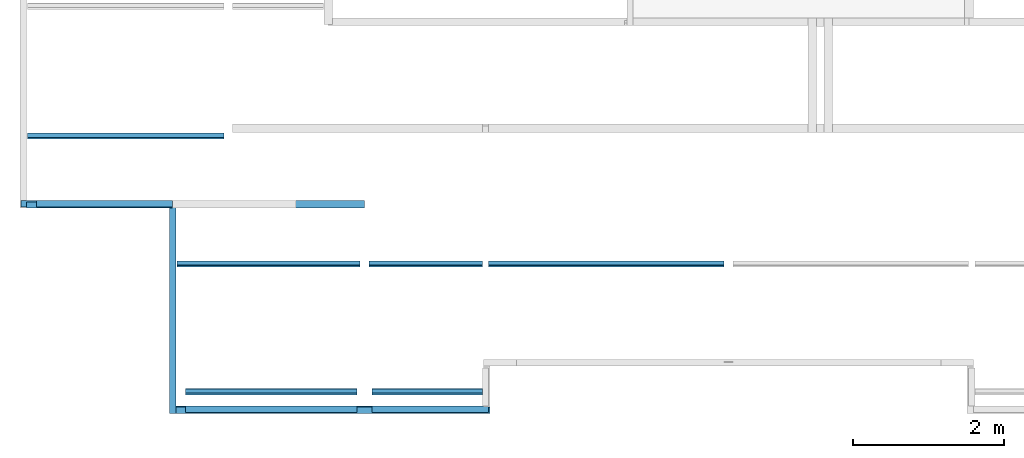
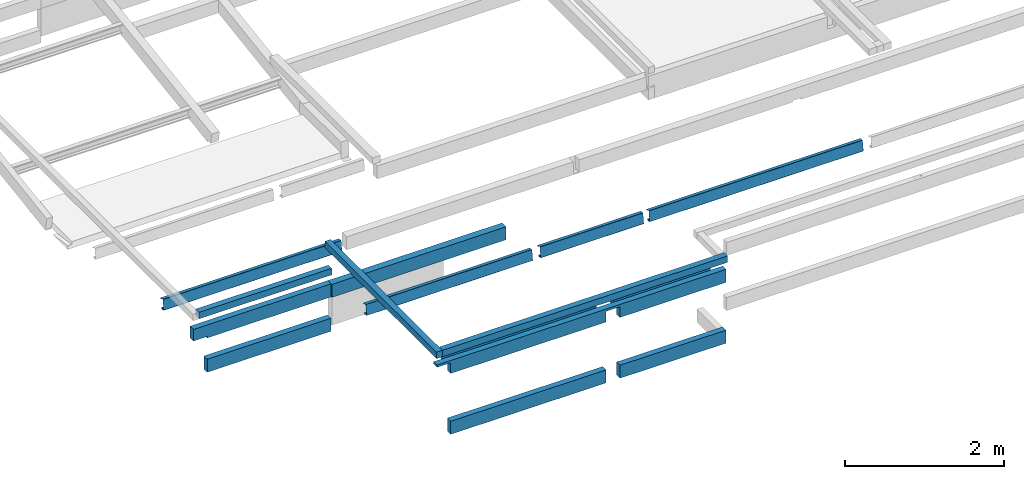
# One storey, part 1 of 9: 14 beams.
"""IFC4 building model written with IfcOpenShell, lengths in metres."""

from ifc_helpers import new_model, entity, si_unit, converted_unit, derived_unit, direction, frame, origin, place, context, subcontext, project, spatial, line, arc, indexed_curve, outline, extrude, source, transform, mapped, material, type_object, type_shapes, element, save


model = new_model("IFC4")

# Units and contexts
model_context = context("Model", 3, precision=1e-05, world=origin(), true_north=direction((6.123031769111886e-17, 1.0)))
body_context = subcontext(model_context, "Body", "Model", "MODEL_VIEW")
ifc_project = project(units=[si_unit("LENGTHUNIT", "METRE"), si_unit("AREAUNIT", "SQUARE_METRE"), si_unit("VOLUMEUNIT", "CUBIC_METRE"), converted_unit("PLANEANGLEUNIT", "DEGREE", entity("IfcRatioMeasure", 0.017453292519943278), si_unit("PLANEANGLEUNIT", "RADIAN"), dimensions=[0, 0, 0, 0, 0, 0, 0]), si_unit("MASSUNIT", "GRAM", prefix="KILO"), derived_unit("MASSDENSITYUNIT", [(si_unit("MASSUNIT", "GRAM", prefix="KILO"), 1), (si_unit("LENGTHUNIT", "METRE"), -3)]), derived_unit("IONCONCENTRATIONUNIT", [(si_unit("MASSUNIT", "GRAM", prefix="KILO"), 1), (si_unit("LENGTHUNIT", "METRE"), -3)]), derived_unit("MOMENTOFINERTIAUNIT", [(si_unit("LENGTHUNIT", "METRE"), 4)]), si_unit("TIMEUNIT", "SECOND"), si_unit("FREQUENCYUNIT", "HERTZ"), si_unit("THERMODYNAMICTEMPERATUREUNIT", "DEGREE_CELSIUS"), derived_unit("THERMALTRANSMITTANCEUNIT", [(si_unit("MASSUNIT", "GRAM", prefix="KILO"), 1), (si_unit("THERMODYNAMICTEMPERATUREUNIT", "KELVIN"), -1), (si_unit("TIMEUNIT", "SECOND"), -3)]), derived_unit("THERMALCONDUCTANCEUNIT", [(si_unit("MASSUNIT", "GRAM", prefix="KILO"), 1), (si_unit("THERMODYNAMICTEMPERATUREUNIT", "KELVIN"), -1), (si_unit("TIMEUNIT", "SECOND"), -3), (si_unit("LENGTHUNIT", "METRE"), 1)]), derived_unit("VOLUMETRICFLOWRATEUNIT", [(si_unit("LENGTHUNIT", "METRE"), 3), (si_unit("TIMEUNIT", "SECOND"), -1)]), derived_unit("MASSFLOWRATEUNIT", [(si_unit("MASSUNIT", "GRAM", prefix="KILO"), 1), (si_unit("TIMEUNIT", "SECOND"), -1)]), derived_unit("ROTATIONALFREQUENCYUNIT", [(si_unit("TIMEUNIT", "SECOND"), -1)]), si_unit("ELECTRICCURRENTUNIT", "AMPERE"), si_unit("ELECTRICVOLTAGEUNIT", "VOLT"), si_unit("POWERUNIT", "WATT"), si_unit("FORCEUNIT", "NEWTON", prefix="KILO"), si_unit("ILLUMINANCEUNIT", "LUX"), si_unit("LUMINOUSFLUXUNIT", "LUMEN"), si_unit("LUMINOUSINTENSITYUNIT", "CANDELA"), derived_unit("USERDEFINED", [(si_unit("MASSUNIT", "GRAM", prefix="KILO"), -1), (si_unit("LENGTHUNIT", "METRE"), -2), (si_unit("TIMEUNIT", "SECOND"), 3), (si_unit("LUMINOUSFLUXUNIT", "LUMEN"), 1)]), derived_unit("USERDEFINED", [(si_unit("MASSUNIT", "GRAM", prefix="KILO"), 1), (si_unit("TIMEUNIT", "SECOND"), -3), (si_unit("LENGTHUNIT", "METRE"), 3), (si_unit("ELECTRICCURRENTUNIT", "AMPERE"), -2)]), derived_unit("SOUNDPOWERUNIT", [(si_unit("MASSUNIT", "GRAM", prefix="KILO"), 1), (si_unit("TIMEUNIT", "SECOND"), -3), (si_unit("LENGTHUNIT", "METRE"), 2)]), derived_unit("SOUNDPRESSUREUNIT", [(si_unit("MASSUNIT", "GRAM", prefix="KILO"), 1), (si_unit("LENGTHUNIT", "METRE"), -1), (si_unit("TIMEUNIT", "SECOND"), -2)]), derived_unit("LINEARVELOCITYUNIT", [(si_unit("LENGTHUNIT", "METRE"), 1), (si_unit("TIMEUNIT", "SECOND"), -1)]), si_unit("PRESSUREUNIT", "PASCAL"), derived_unit("USERDEFINED", [(si_unit("MASSUNIT", "GRAM", prefix="KILO"), 1), (si_unit("LENGTHUNIT", "METRE"), -2), (si_unit("TIMEUNIT", "SECOND"), -2)]), derived_unit("LINEARFORCEUNIT", [(si_unit("MASSUNIT", "GRAM", prefix="KILO"), 1), (si_unit("TIMEUNIT", "SECOND"), -2)]), derived_unit("PLANARFORCEUNIT", [(si_unit("MASSUNIT", "GRAM", prefix="KILO"), 1), (si_unit("LENGTHUNIT", "METRE"), -1), (si_unit("TIMEUNIT", "SECOND"), -2)]), derived_unit("SPECIFICHEATCAPACITYUNIT", [(si_unit("THERMODYNAMICTEMPERATUREUNIT", "KELVIN"), -1), (si_unit("LENGTHUNIT", "METRE"), 2), (si_unit("TIMEUNIT", "SECOND"), -2)]), derived_unit("HEATINGVALUEUNIT", [(si_unit("LENGTHUNIT", "METRE"), 2), (si_unit("TIMEUNIT", "SECOND"), -2)]), derived_unit("VAPORPERMEABILITYUNIT", [(si_unit("LENGTHUNIT", "METRE"), -1), (si_unit("TIMEUNIT", "SECOND"), 1)]), derived_unit("DYNAMICVISCOSITYUNIT", [(si_unit("MASSUNIT", "GRAM", prefix="KILO"), 1), (si_unit("TIMEUNIT", "SECOND"), -1), (si_unit("LENGTHUNIT", "METRE"), -1)]), derived_unit("THERMALEXPANSIONCOEFFICIENTUNIT", [(si_unit("THERMODYNAMICTEMPERATUREUNIT", "KELVIN"), -1)]), derived_unit("MODULUSOFELASTICITYUNIT", [(si_unit("MASSUNIT", "GRAM", prefix="KILO"), 1), (si_unit("LENGTHUNIT", "METRE"), -1), (si_unit("TIMEUNIT", "SECOND"), -2)]), derived_unit("ISOTHERMALMOISTURECAPACITYUNIT", [(si_unit("LENGTHUNIT", "METRE"), 3), (si_unit("MASSUNIT", "GRAM", prefix="KILO"), -1)]), derived_unit("MOISTUREDIFFUSIVITYUNIT", [(si_unit("TIMEUNIT", "SECOND"), -1), (si_unit("LENGTHUNIT", "METRE"), 2)])], contexts=[model_context])

# Site, building, storey
site_placement = place(None, origin())
site = spatial("IfcSite", under=ifc_project, at=site_placement, Name="Default", CompositionType="ELEMENT")
building_placement = place(site_placement, origin())
building = spatial("IfcBuilding", under=site, at=building_placement, Name="Las nubes", CompositionType="ELEMENT")
storey_placement = place(building_placement, frame((0.0, 0.0, 14.100000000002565)))
storey = spatial("IfcBuildingStorey", under=building, at=storey_placement, Name="CUBIERTA", CompositionType="ELEMENT", Elevation=14.100000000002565)

# Beams
ifc_material_1 = material(Name="Concrete, Cast In Situ", Category="Materials")
beam_type_1 = type_object("IfcBeamType", Name="M_Concrete-Rectangular Beam:(0.085x0.20)", PredefinedType="BEAM", material=ifc_material_1)
shared_shape_1 = source(origin(), body_context, "Body", "SweptSolid", [
    extrude(outline(indexed_curve([(-0.10000000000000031, -0.042499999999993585), (0.0999999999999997, -0.042500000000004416), (0.10000000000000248, 0.04249999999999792), (-0.09999999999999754, 0.042500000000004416), (-0.10000000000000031, -0.042499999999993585)], self_intersect=False)), frame((0.1725000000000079, -10.08249491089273, 14.10000000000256), z_axis=(1.0, 0.0, 0.0), x_axis=(0.0, 0.0, -1.0)), (0.0, 0.0, 1.0), 1.8024999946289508),
])
type_shapes(beam_type_1, [shared_shape_1])
beam_1_placement = place(storey_placement, frame((0.0, 0.0, -14.100000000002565)))
element("IfcBeam", 1, at=beam_1_placement, inside=storey, type_object=beam_type_1, material=ifc_material_1, Name="M_Concrete-Rectangular Beam:(0.085x0.20)", ObjectType="M_Concrete-Rectangular Beam:(0.085x0.20)", PredefinedType="BEAM", context=body_context, shape_type="MappedRepresentation", body=[
    mapped(shared_shape_1, transform((0.0, 0.0, 0.0), scale=1.0)),
])
beam_type_2 = type_object("IfcBeamType", Name="M_Concrete-Rectangular Beam:(0.085x0.20)", PredefinedType="BEAM", material=ifc_material_1)
shared_shape_2 = source(origin(), body_context, "Body", "SweptSolid", [
    extrude(outline(indexed_curve([(-0.10000000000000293, -0.04249999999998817), (0.09999999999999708, -0.0425000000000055), (0.10000000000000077, 0.04249999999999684), (-0.09999999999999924, 0.042500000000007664), (-0.10000000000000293, -0.04249999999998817)], self_intersect=False)), frame((2.147499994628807, -12.797500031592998, 14.100000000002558), z_axis=(1.0, 0.0, 0.0), x_axis=(0.0, 0.0, -1.0)), (0.0, 0.0, 1.0), 2.2624999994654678),
    extrude(outline(indexed_curve([(-0.100000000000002, -0.04249999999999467), (0.09999999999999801, -0.042500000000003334), (0.09999999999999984, 0.042499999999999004), (-0.10000000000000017, 0.042500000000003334), (-0.100000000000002, -0.04249999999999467)], self_intersect=False)), frame((4.609999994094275, -12.797500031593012, 14.100000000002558), z_axis=(1.0, 0.0, 0.0), x_axis=(0.0, 0.0, -1.0)), (0.0, 0.0, 1.0), 1.5424999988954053),
])
type_shapes(beam_type_2, [shared_shape_2])
beam_2_placement = place(storey_placement, frame((0.0, 0.0, -14.100000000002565)))
element("IfcBeam", 2, at=beam_2_placement, inside=storey, type_object=beam_type_2, material=ifc_material_1, Name="M_Concrete-Rectangular Beam:(0.085x0.20)", ObjectType="M_Concrete-Rectangular Beam:(0.085x0.20)", PredefinedType="BEAM", context=body_context, shape_type="MappedRepresentation", body=[
    mapped(shared_shape_2, transform((0.0, 0.0, 0.0), scale=1.0)),
])
beam_type_3 = type_object("IfcBeamType", Name="M_Concrete-Rectangular Beam:(0.085x0.20)", PredefinedType="BEAM", material=ifc_material_1)
shared_shape_3 = source(origin(), body_context, "Body", "SweptSolid", [
    extrude(outline(indexed_curve([(-2.2989999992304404, -0.10572000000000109), (-0.7565000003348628, -0.10572000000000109), (-0.7565000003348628, 0.05858000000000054), (-0.5565000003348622, 0.05858000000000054), (-0.5565000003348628, -0.10572000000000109), (1.7059999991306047, -0.10572000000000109), (1.7059999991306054, 0.05858000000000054), (1.9060000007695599, 0.05858000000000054), (1.9060000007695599, 0.09427999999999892), (-2.2989999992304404, 0.09427999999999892), (-2.2989999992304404, -0.10572000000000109)], self_intersect=False)), frame((3.853499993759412, -12.840000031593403, 15.041420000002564), z_axis=(0.0, 1.0, 0.0), x_axis=(-1.0, 0.0, 0.0)), (0.0, 0.0, 1.0), 0.08500000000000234),
])
type_shapes(beam_type_3, [shared_shape_3])
beam_3_placement = place(storey_placement, frame((0.0, 0.0, -14.100000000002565)))
element("IfcBeam", 3, at=beam_3_placement, inside=storey, type_object=beam_type_3, material=ifc_material_1, Name="M_Concrete-Rectangular Beam:(0.085x0.20)", ObjectType="M_Concrete-Rectangular Beam:(0.085x0.20)", PredefinedType="BEAM", context=body_context, shape_type="MappedRepresentation", body=[
    mapped(shared_shape_3, transform((0.0, 0.0, 0.0), scale=1.0)),
])
beam_type_4 = type_object("IfcBeamType", Name="M_Concrete-Rectangular Beam:(0.085x0.20)", PredefinedType="BEAM", material=ifc_material_1)
shared_shape_4 = source(origin(), body_context, "Body", "SweptSolid", [
    extrude(outline(indexed_curve([(-0.11825156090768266, -0.9546874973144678), (0.0711609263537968, -0.9546874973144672), (0.08174843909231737, -0.9546874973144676), (0.08174843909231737, 0.8478124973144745), (0.060048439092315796, 0.8478124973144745), (0.060048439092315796, 1.0478124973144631), (-0.11825156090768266, 1.0478124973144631), (-0.11825156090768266, -0.927187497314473), (-0.11825156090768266, -0.9546874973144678)], self_intersect=False)), frame((1.0203124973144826, -10.125000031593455, 14.61004843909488), z_axis=(0.0, 1.0, 0.0), x_axis=(0.0, 0.0, -1.0)), (0.0, 0.0, 1.0), 0.08500000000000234),
])
type_shapes(beam_type_4, [shared_shape_4])
beam_4_placement = place(storey_placement, frame((0.0, 0.0, -14.100000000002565)))
element("IfcBeam", 4, at=beam_4_placement, inside=storey, type_object=beam_type_4, material=ifc_material_1, Name="M_Concrete-Rectangular Beam:(0.085x0.20)", ObjectType="M_Concrete-Rectangular Beam:(0.085x0.20)", PredefinedType="BEAM", context=body_context, shape_type="MappedRepresentation", body=[
    mapped(shared_shape_4, transform((0.0, 0.0, 0.0), scale=1.0)),
])
ifc_material_2 = material(Name="Concrete - Cast-in-Place Concrete - 28 MPa SLAB", Category="Materials")
beam_type_5 = type_object("IfcBeamType", Name="M_Concrete-Rectangular Beam:(0.10x0.20)", PredefinedType="BEAM", material=ifc_material_2)
shared_shape_5 = source(origin(), body_context, "Body", "SweptSolid", [
    extrude(outline(indexed_curve([(-0.09999999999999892, -0.05000000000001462), (0.10000000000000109, -0.0499999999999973), (0.09999999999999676, 0.050000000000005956), (-0.10000000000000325, 0.0499999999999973), (-0.09999999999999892, -0.05000000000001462)], self_intersect=False)), frame((1.9749999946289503, -10.090000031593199, 14.628300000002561), z_axis=(1.0, 0.0, 0.0), x_axis=(0.0, 0.0, -1.0)), (0.0, 0.0, 1.0), 2.5349999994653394),
])
type_shapes(beam_type_5, [shared_shape_5])
beam_5_placement = place(storey_placement, frame((0.0, 0.0, -14.100000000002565)))
element("IfcBeam", 5, at=beam_5_placement, inside=storey, type_object=beam_type_5, material=ifc_material_2, Name="M_Concrete-Rectangular Beam:(0.10x0.20)", ObjectType="M_Concrete-Rectangular Beam:(0.10x0.20)", PredefinedType="BEAM", context=body_context, shape_type="MappedRepresentation", body=[
    mapped(shared_shape_5, transform((0.0, 0.0, 0.0), scale=1.0)),
])
beam_type_6 = type_object("IfcBeamType", Name="M_Concrete-Rectangular Beam:(0.085x0.10)", PredefinedType="BEAM", material=ifc_material_1)
shared_shape_6 = source(origin(), body_context, "Body", "SweptSolid", [
    extrude(outline(indexed_curve([(-0.04250000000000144, -0.04999999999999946), (0.04250000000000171, -0.04999999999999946), (0.04250000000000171, 0.050000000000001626), (-0.04250000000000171, 0.050000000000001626), (-0.04250000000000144, -0.04999999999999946)], self_intersect=False)), frame((1.9749999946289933, -10.040000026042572, 15.296800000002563), z_axis=(0.0, -1.0, 0.0), x_axis=(-1.0, 0.0, 0.0)), (0.0, 0.0, 1.0), 2.8150000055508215),
])
type_shapes(beam_type_6, [shared_shape_6])
beam_6_placement = place(storey_placement, frame((0.0, 0.0, -14.100000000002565)))
element("IfcBeam", 6, at=beam_6_placement, inside=storey, type_object=beam_type_6, material=ifc_material_1, Name="M_Concrete-Rectangular Beam:(0.085x0.10)", ObjectType="M_Concrete-Rectangular Beam:(0.085x0.10)", PredefinedType="BEAM", context=body_context, shape_type="MappedRepresentation", body=[
    mapped(shared_shape_6, transform((0.0, 0.0, 0.0), scale=1.0)),
])
ifc_material_3 = material(Name="Steel - 300+", Category="Materials")
beam_type_7 = type_object("IfcBeamType", Name="AUS-C Purlin:CR-1", PredefinedType="BEAM", material=ifc_material_3)
shared_shape_7 = source(origin(), body_context, "Body", "SweptSolid", [
    extrude(outline(indexed_curve([(-0.07614999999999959, -0.023850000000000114), (-0.05965000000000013, -0.023850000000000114), (-0.05965000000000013, -0.02185000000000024), (-0.07615000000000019, -0.02185000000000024), (-0.07721066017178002, -0.021410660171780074), (-0.0776500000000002, -0.020350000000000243), (-0.07765000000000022, 0.03265000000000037), (-0.07721066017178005, 0.033710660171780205), (-0.0761500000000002, 0.03415000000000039), (0.0733499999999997, 0.03415000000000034), (0.07688553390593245, 0.03268553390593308), (0.07834999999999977, 0.029150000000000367), (0.07834999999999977, -0.02035000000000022), (0.07791066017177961, -0.021410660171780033), (0.07684999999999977, -0.02185000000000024), (0.06034999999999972, -0.02185000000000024), (0.06034999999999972, -0.023850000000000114), (0.07685000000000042, -0.023850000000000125), (0.07932487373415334, -0.022824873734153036), (0.0803500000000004, -0.020350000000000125), (0.0803500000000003, 0.029149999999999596), (0.078299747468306, 0.034099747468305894), (0.07334999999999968, 0.03615000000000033), (-0.07614999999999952, 0.036150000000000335), (-0.07862487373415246, 0.03512487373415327), (-0.07964999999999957, 0.032650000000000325), (-0.07964999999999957, -0.020350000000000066), (-0.07862487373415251, -0.022824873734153)], segments=[line(1, 2, 3, 4), arc(4, 5, 6), line(6, 7), arc(7, 8, 9), line(9, 10), arc(10, 11, 12), line(12, 13), arc(13, 14, 15), line(15, 16, 17, 18), arc(18, 19, 20), line(20, 21), arc(21, 22, 23), line(23, 24), arc(24, 25, 26), line(26, 27), arc(27, 28, 1)], self_intersect=False)), frame((-1.1599999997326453, -0.03415000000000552, 0.0003499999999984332), z_axis=(1.0, 0.0, 0.0), x_axis=(0.0, 0.0, -1.0)), (0.0, 0.0, 1.0), 2.2624999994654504),
])
type_shapes(beam_type_7, [shared_shape_7])
beam_7_placement = place(storey_placement, frame((3.24999999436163, -12.594260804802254, 0.9306191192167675), z_axis=(0.0, 0.14834045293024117, 0.9889363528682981), x_axis=(-1.0, 0.0, 0.0)))
element("IfcBeam", 7, at=beam_7_placement, inside=storey, type_object=beam_type_7, material=ifc_material_3, Name="AUS-C Purlin:CR-1", ObjectType="AUS-C Purlin:CR-1", PredefinedType="BEAM", context=body_context, shape_type="MappedRepresentation", body=[
    mapped(shared_shape_7, transform((0.0, 0.0, 0.0), scale=1.0)),
])
beam_type_8 = type_object("IfcBeamType", Name="AUS-C Purlin:CR-1", PredefinedType="BEAM", material=ifc_material_3)
shared_shape_8 = source(origin(), body_context, "Body", "SweptSolid", [
    extrude(outline(indexed_curve([(-0.07614999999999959, -0.023850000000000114), (-0.05965000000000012, -0.023850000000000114), (-0.05965000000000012, -0.02185000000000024), (-0.07615000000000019, -0.02185000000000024), (-0.07721066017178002, -0.021410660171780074), (-0.0776500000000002, -0.020350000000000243), (-0.07765000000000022, 0.03265000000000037), (-0.07721066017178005, 0.033710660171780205), (-0.0761500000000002, 0.03415000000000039), (0.07334999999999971, 0.03415000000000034), (0.07688553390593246, 0.03268553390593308), (0.07834999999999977, 0.029150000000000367), (0.07834999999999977, -0.02035000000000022), (0.07791066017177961, -0.021410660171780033), (0.07684999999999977, -0.02185000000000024), (0.060349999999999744, -0.02185000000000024), (0.060349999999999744, -0.023850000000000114), (0.07685000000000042, -0.023850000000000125), (0.07932487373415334, -0.022824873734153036), (0.0803500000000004, -0.020350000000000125), (0.08035000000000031, 0.029149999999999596), (0.07829974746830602, 0.034099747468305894), (0.0733499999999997, 0.03615000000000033), (-0.07614999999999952, 0.036150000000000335), (-0.07862487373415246, 0.03512487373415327), (-0.07964999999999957, 0.032650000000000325), (-0.07964999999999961, -0.020350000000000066), (-0.07862487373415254, -0.02282487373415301)], segments=[line(1, 2, 3, 4), arc(4, 5, 6), line(6, 7), arc(7, 8, 9), line(9, 10), arc(10, 11, 12), line(12, 13), arc(13, 14, 15), line(15, 16, 17, 18), arc(18, 19, 20), line(20, 21), arc(21, 22, 23), line(23, 24), arc(24, 25, 26), line(26, 27), arc(27, 28, 1)], self_intersect=False)), frame((-0.7574999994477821, -0.03415000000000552, 0.0003499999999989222), z_axis=(1.0, 0.0, 0.0), x_axis=(0.0, 0.0, -1.0)), (0.0, 0.0, 1.0), 1.457499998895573),
])
type_shapes(beam_type_8, [shared_shape_8])
beam_8_placement = place(storey_placement, frame((5.309999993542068, -12.594260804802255, 0.9306191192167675), z_axis=(0.0, 0.14834045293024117, 0.9889363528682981), x_axis=(-1.0, 0.0, 0.0)))
element("IfcBeam", 8, at=beam_8_placement, inside=storey, type_object=beam_type_8, material=ifc_material_3, Name="AUS-C Purlin:CR-1", ObjectType="AUS-C Purlin:CR-1", PredefinedType="BEAM", context=body_context, shape_type="MappedRepresentation", body=[
    mapped(shared_shape_8, transform((0.0, 0.0, 0.0), scale=1.0)),
])
beam_type_9 = type_object("IfcBeamType", Name="AUS-C Purlin:CR-1", PredefinedType="BEAM", material=ifc_material_3)
shared_shape_9 = source(origin(), body_context, "Body", "SweptSolid", [
    extrude(outline(indexed_curve([(-0.07614999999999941, -0.03615000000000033), (0.07334999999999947, -0.036150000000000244), (0.07829974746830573, -0.03409974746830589), (0.08035000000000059, -0.02914999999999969), (0.08035000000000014, 0.020350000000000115), (0.07932487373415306, 0.022824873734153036), (0.0768500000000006, 0.023850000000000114), (0.06034999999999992, 0.023850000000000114), (0.06034999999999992, 0.02185000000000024), (0.07684999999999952, 0.02185000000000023), (0.07791066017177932, 0.021410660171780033), (0.07834999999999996, 0.020350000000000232), (0.07834999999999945, -0.029150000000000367), (0.07688553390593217, -0.032685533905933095), (0.07334999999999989, -0.03415000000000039), (-0.0761500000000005, -0.03415000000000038), (-0.07721066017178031, -0.033710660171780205), (-0.07765000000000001, -0.03265000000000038), (-0.07765000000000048, 0.02035000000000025), (-0.0772106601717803, 0.021410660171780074), (-0.07615000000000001, 0.02185000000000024), (-0.05964999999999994, 0.02185000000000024), (-0.05964999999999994, 0.023850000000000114), (-0.07614999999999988, 0.023850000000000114), (-0.07862487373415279, 0.022824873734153), (-0.07964999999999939, 0.020350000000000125), (-0.07964999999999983, -0.032650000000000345), (-0.07862487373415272, -0.03512487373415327)], segments=[line(1, 2), arc(2, 3, 4), line(4, 5), arc(5, 6, 7), line(7, 8, 9, 10), arc(10, 11, 12), line(12, 13), arc(13, 14, 15), line(15, 16), arc(16, 17, 18), line(18, 19), arc(19, 20, 21), line(21, 22, 23, 24), arc(24, 25, 26), line(26, 27), arc(27, 28, 1)], self_intersect=False)), frame((-1.216318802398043, 0.03415000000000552, 0.00034999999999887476), z_axis=(1.0, 0.0, 0.0), x_axis=(0.0, 0.0, -1.0)), (0.0, 0.0, 1.0), 2.4188188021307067),
])
type_shapes(beam_type_9, [shared_shape_9])
beam_9_placement = place(storey_placement, frame((3.2499999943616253, -10.904557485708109, 0.6771636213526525), z_axis=(0.0, 0.14834045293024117, 0.9889363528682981), x_axis=(1.0, 0.0, 0.0)))
element("IfcBeam", 9, at=beam_9_placement, inside=storey, type_object=beam_type_9, material=ifc_material_3, Name="AUS-C Purlin:CR-1", ObjectType="AUS-C Purlin:CR-1", PredefinedType="BEAM", context=body_context, shape_type="MappedRepresentation", body=[
    mapped(shared_shape_9, transform((0.0, 0.0, 0.0), scale=1.0)),
])
beam_type_10 = type_object("IfcBeamType", Name="AUS-C Purlin:CR-1", PredefinedType="BEAM", material=ifc_material_3)
shared_shape_10 = source(origin(), body_context, "Body", "SweptSolid", [
    extrude(outline(indexed_curve([(-0.07614999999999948, -0.03615000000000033), (0.07334999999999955, -0.036150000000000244), (0.07829974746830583, -0.03409974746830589), (0.08035000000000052, -0.02914999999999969), (0.08035000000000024, 0.020350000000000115), (0.07932487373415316, 0.022824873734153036), (0.07685000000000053, 0.023850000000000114), (0.060349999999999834, 0.023850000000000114), (0.060349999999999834, 0.02185000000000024), (0.07684999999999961, 0.02185000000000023), (0.07791066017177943, 0.021410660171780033), (0.07834999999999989, 0.020350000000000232), (0.07834999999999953, -0.029150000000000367), (0.07688553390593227, -0.032685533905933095), (0.0733499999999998, -0.03415000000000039), (-0.0761500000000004, -0.03415000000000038), (-0.07721066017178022, -0.033710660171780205), (-0.07765000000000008, -0.03265000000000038), (-0.07765000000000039, 0.02035000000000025), (-0.07721066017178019, 0.021410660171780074), (-0.07615000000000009, 0.02185000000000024), (-0.05965000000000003, 0.02185000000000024), (-0.05965000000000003, 0.023850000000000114), (-0.07614999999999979, 0.023850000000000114), (-0.07862487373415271, 0.02282487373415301), (-0.07964999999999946, 0.020350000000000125), (-0.07964999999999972, -0.032650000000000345), (-0.07862487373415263, -0.03512487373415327)], segments=[line(1, 2), arc(2, 3, 4), line(4, 5), arc(5, 6, 7), line(7, 8, 9, 10), arc(10, 11, 12), line(12, 13), arc(13, 14, 15), line(15, 16), arc(16, 17, 18), line(18, 19), arc(19, 20, 21), line(21, 22, 23, 24), arc(24, 25, 26), line(26, 27), arc(27, 28, 1)], self_intersect=False)), frame((-0.7424894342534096, 0.03415000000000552, 0.00034999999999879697), z_axis=(1.0, 0.0, 0.0), x_axis=(0.0, 0.0, -1.0)), (0.0, 0.0, 1.0), 1.4999894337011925),
])
type_shapes(beam_type_10, [shared_shape_10])
beam_10_placement = place(storey_placement, frame((5.309999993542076, -10.904557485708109, 0.6771636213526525), z_axis=(0.0, 0.14834045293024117, 0.9889363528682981), x_axis=(1.0, 0.0, 0.0)))
element("IfcBeam", 10, at=beam_10_placement, inside=storey, type_object=beam_type_10, material=ifc_material_3, Name="AUS-C Purlin:CR-1", ObjectType="AUS-C Purlin:CR-1", PredefinedType="BEAM", context=body_context, shape_type="MappedRepresentation", body=[
    mapped(shared_shape_10, transform((0.0, 0.0, 0.0), scale=1.0)),
])
beam_type_11 = type_object("IfcBeamType", Name="AUS-C Purlin:CR-1", PredefinedType="BEAM", material=ifc_material_3)
shared_shape_11 = source(origin(), body_context, "Body", "SweptSolid", [
    extrude(outline(indexed_curve([(-0.07615000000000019, -0.03615000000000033), (0.07335000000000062, -0.036150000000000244), (0.0782997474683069, -0.03409974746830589), (0.08034999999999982, -0.02914999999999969), (0.08035000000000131, 0.020350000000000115), (0.07932487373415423, 0.022824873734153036), (0.07684999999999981, 0.023850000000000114), (0.060349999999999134, 0.023850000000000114), (0.060349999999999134, 0.02185000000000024), (0.07685000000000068, 0.02185000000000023), (0.07791066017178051, 0.02141066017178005), (0.0783499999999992, 0.020350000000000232), (0.0783500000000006, -0.029150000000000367), (0.07688553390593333, -0.032685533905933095), (0.07334999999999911, -0.03415000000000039), (-0.07614999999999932, -0.03415000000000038), (-0.07721066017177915, -0.033710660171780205), (-0.07765000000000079, -0.03265000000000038), (-0.07764999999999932, 0.02035000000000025), (-0.07721066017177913, 0.021410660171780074), (-0.0761500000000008, 0.02185000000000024), (-0.05965000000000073, 0.02185000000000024), (-0.05965000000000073, 0.023850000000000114), (-0.07614999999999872, 0.023850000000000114), (-0.07862487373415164, 0.02282487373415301), (-0.07965000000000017, 0.020350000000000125), (-0.07964999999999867, -0.032650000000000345), (-0.07862487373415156, -0.03512487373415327)], segments=[line(1, 2), arc(2, 3, 4), line(4, 5), arc(5, 6, 7), line(7, 8, 9, 10), arc(10, 11, 12), line(12, 13), arc(13, 14, 15), line(15, 16), arc(16, 17, 18), line(18, 19), arc(19, 20, 21), line(21, 22, 23, 24), arc(24, 25, 26), line(26, 27), arc(27, 28, 1)], self_intersect=False)), frame((-1.563582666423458, 0.03415000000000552, 0.00034999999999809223), z_axis=(1.0, 0.0, 0.0), x_axis=(0.0, 0.0, -1.0)), (0.0, 0.0, 1.0), 3.1098326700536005),
])
type_shapes(beam_type_11, [shared_shape_11])
beam_11_placement = place(storey_placement, frame((7.7162499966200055, -10.904557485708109, 0.6771636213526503), z_axis=(0.0, 0.14834045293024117, 0.9889363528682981), x_axis=(1.0, 0.0, 0.0)))
element("IfcBeam", 11, at=beam_11_placement, inside=storey, type_object=beam_type_11, material=ifc_material_3, Name="AUS-C Purlin:CR-1", ObjectType="AUS-C Purlin:CR-1", PredefinedType="BEAM", context=body_context, shape_type="MappedRepresentation", body=[
    mapped(shared_shape_11, transform((0.0, 0.0, 0.0), scale=1.0)),
])
beam_type_12 = type_object("IfcBeamType", Name="AUS-C Purlin:CR-1", PredefinedType="BEAM", material=ifc_material_3)
shared_shape_12 = source(origin(), body_context, "Body", "SweptSolid", [
    extrude(outline(indexed_curve([(-0.0761499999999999, -0.03615000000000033), (0.0733500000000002, -0.036150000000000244), (0.07829974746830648, -0.03409974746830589), (0.08035000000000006, -0.02914999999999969), (0.08035000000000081, 0.020350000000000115), (0.07932487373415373, 0.022824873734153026), (0.07685000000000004, 0.023850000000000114), (0.060349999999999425, 0.023850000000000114), (0.060349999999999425, 0.02185000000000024), (0.07685000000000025, 0.02185000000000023), (0.07791066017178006, 0.021410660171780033), (0.07834999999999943, 0.020350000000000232), (0.07835000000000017, -0.029150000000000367), (0.07688553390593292, -0.032685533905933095), (0.0733499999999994, -0.03415000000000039), (-0.07614999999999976, -0.03415000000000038), (-0.07721066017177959, -0.033710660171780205), (-0.07765000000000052, -0.03265000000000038), (-0.07764999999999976, 0.02035000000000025), (-0.07721066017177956, 0.021410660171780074), (-0.07615000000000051, 0.02185000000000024), (-0.05965000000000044, 0.02185000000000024), (-0.05965000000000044, 0.023850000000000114), (-0.07614999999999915, 0.023850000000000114), (-0.07862487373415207, 0.022824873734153), (-0.0796499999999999, 0.020350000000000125), (-0.0796499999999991, -0.032650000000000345), (-0.078624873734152, -0.03512487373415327)], segments=[line(1, 2), arc(2, 3, 4), line(4, 5), arc(5, 6, 7), line(7, 8, 9, 10), arc(10, 11, 12), line(12, 13), arc(13, 14, 15), line(15, 16), arc(16, 17, 18), line(18, 19), arc(19, 20, 21), line(21, 22, 23, 24), arc(24, 25, 26), line(26, 27), arc(27, 28, 1)], self_intersect=False)), frame((-1.3043464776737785, 0.03415000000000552, 0.0003499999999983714), z_axis=(1.0, 0.0, 0.0), x_axis=(0.0, 0.0, -1.0)), (0.0, 0.0, 1.0), 2.5935732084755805),
])
type_shapes(beam_type_12, [shared_shape_12])
beam_12_placement = place(storey_placement, frame((1.3625005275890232, -9.214557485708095, 0.4236636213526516), z_axis=(0.0, 0.14834045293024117, 0.9889363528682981), x_axis=(1.0, 0.0, 0.0)))
element("IfcBeam", 12, at=beam_12_placement, inside=storey, type_object=beam_type_12, material=ifc_material_3, Name="AUS-C Purlin:CR-1", ObjectType="AUS-C Purlin:CR-1", PredefinedType="BEAM", context=body_context, shape_type="MappedRepresentation", body=[
    mapped(shared_shape_12, transform((0.0, 0.0, 0.0), scale=1.0)),
])
beam_type_13 = type_object("IfcBeamType", Name="M_Concrete-Rectangular Beam:(0.085x0.10)", PredefinedType="BEAM", material=ifc_material_1)
shared_shape_13 = source(origin(), body_context, "Body", "SweptSolid", [
    extrude(outline(indexed_curve([(-0.05000000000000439, -0.04249999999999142), (0.04999999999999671, -0.042500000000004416), (0.05000000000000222, 0.04249999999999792), (-0.04999999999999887, 0.042500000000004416), (-0.05000000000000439, -0.04249999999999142)], self_intersect=False)), frame((0.042499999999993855, -10.09750003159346, 14.92580000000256), z_axis=(1.0, 0.0, 0.0), x_axis=(0.0, 0.0, -1.0)), (0.0, 0.0, 1.0), 1.932499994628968),
])
type_shapes(beam_type_13, [shared_shape_13])
beam_13_placement = place(storey_placement, frame((0.0, 0.0, -14.100000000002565)))
element("IfcBeam", 13, at=beam_13_placement, inside=storey, type_object=beam_type_13, material=ifc_material_1, Name="M_Concrete-Rectangular Beam:(0.085x0.10)", ObjectType="M_Concrete-Rectangular Beam:(0.085x0.10)", PredefinedType="BEAM", context=body_context, shape_type="MappedRepresentation", body=[
    mapped(shared_shape_13, transform((0.0, 0.0, 0.0), scale=1.0)),
])
beam_type_14 = type_object("IfcBeamType", Name="M_Concrete-Rectangular Beam:(0.085x0.10)", PredefinedType="BEAM", material=ifc_material_1)
shared_shape_14 = source(origin(), body_context, "Body", "SweptSolid", [
    extrude(outline(indexed_curve([(-0.05000000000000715, -0.04249999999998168), (0.04999999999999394, -0.042500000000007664), (0.050000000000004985, 0.04249999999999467), (-0.0499999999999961, 0.042500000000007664), (-0.05000000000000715, -0.04249999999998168)], self_intersect=False)), frame((2.0174999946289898, -12.812500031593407, 15.29680000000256), z_axis=(1.0, 0.0, 0.0), x_axis=(0.0, 0.0, -1.0)), (0.0, 0.0, 1.0), 4.149999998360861),
])
type_shapes(beam_type_14, [shared_shape_14])
beam_14_placement = place(storey_placement, frame((0.0, 0.0, -14.100000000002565)))
element("IfcBeam", 14, at=beam_14_placement, inside=storey, type_object=beam_type_14, material=ifc_material_1, Name="M_Concrete-Rectangular Beam:(0.085x0.10)", ObjectType="M_Concrete-Rectangular Beam:(0.085x0.10)", PredefinedType="BEAM", context=body_context, shape_type="MappedRepresentation", body=[
    mapped(shared_shape_14, transform((0.0, 0.0, 0.0), scale=1.0)),
])

save(model, "model.ifc")
